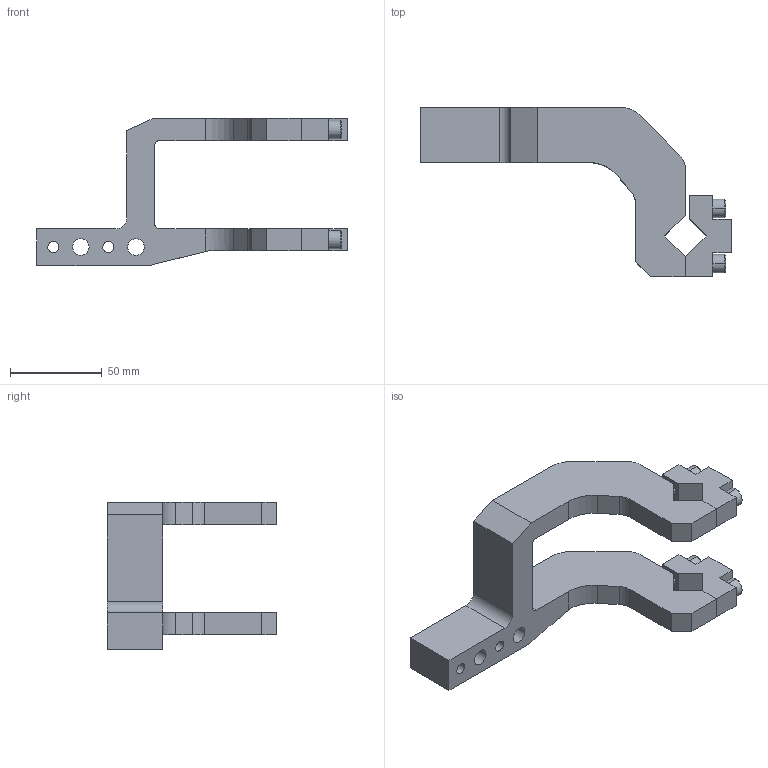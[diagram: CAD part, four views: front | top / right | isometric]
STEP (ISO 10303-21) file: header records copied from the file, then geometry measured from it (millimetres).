
FILE_DESCRIPTION((''),'2;1');
FILE_NAME('S:\Matthew\Step Files\XM Clamp Arms\XJ50-CAR-02.stp','2006-06-28T08:11:51',('Matthew'),(''),'Autodesk Inventor 8','Autodesk Inventor 8','');
FILE_SCHEMA(('AUTOMOTIVE_DESIGN { 1 0 10303 214 1 1 1 1 }'));
Length unit declared in the file: millimetre
Products named in the file (4): XJ50-CAR-02; XJ50-CAR-021; XJ50-CAR-022; XJ50-CAR-023
Assembly tree (3 placements, depth 2):
  XJ50-CAR-02
    XJ50-CAR-021
    XJ50-CAR-022
    XJ50-CAR-023
Bounding box: 169 x 92 x 80 mm (x, y, z)
Volume: 164652.5 mm3; surface area: 45672.5 mm2
Topology: 3 solids, 3 shells, 154 faces, 392 edges, 252 vertices
Faces by surface type: plane 93, bspline 32, cylinder 21, cone 8
Entity records: 5106 total; most frequent: CARTESIAN_POINT 1341, ORIENTED_EDGE 768, DIRECTION 741, EDGE_CURVE 384, VECTOR 285, LINE 285, VERTEX_POINT 252, AXIS2_PLACEMENT_3D 228
